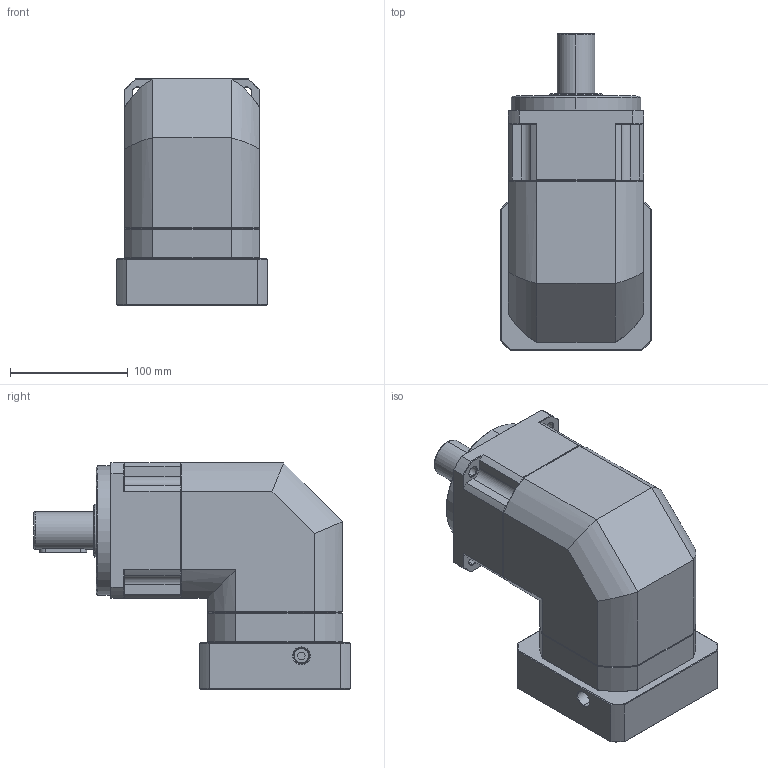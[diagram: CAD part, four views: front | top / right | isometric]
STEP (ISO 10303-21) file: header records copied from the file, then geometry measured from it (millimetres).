
FILE_DESCRIPTION (( 'STEP AP214' ), '1' );
FILE_NAME ('ZPBR115-D32-L1-P1-24-110-145-M8.step', '2024-06-29T08:06:01', ( 'Windows 蚚誧' ), ( 'Organization' ), 'SwSTEP 2.0', 'SolidWorks 2016', '' );
FILE_SCHEMA (( 'AUTOMOTIVE_DESIGN' ));
Length unit declared in the file: millimetre
Products named in the file (1): ZPBR115-D32-L1-P1-24-110-145-M8
Bounding box: 128 x 269 x 192.2 mm (x, y, z)
Surface area: 193064.9 mm2 (no closed solid volume)
Topology: 0 solids, 28 shells, 1833 faces, 4976 edges, 3202 vertices
Faces by surface type: plane 929, bspline 381, cone 270, cylinder 253
Full cylindrical faces by diameter (mm): 10.2 x4
Entity records: 98489 total; most frequent: CARTESIAN_POINT 49245, ORIENTED_EDGE 9754, DIRECTION 7449, EDGE_CURVE 4886, LINE 3173, VECTOR 3173, VERTEX_POINT 3138, AXIS2_PLACEMENT_3D 2138
